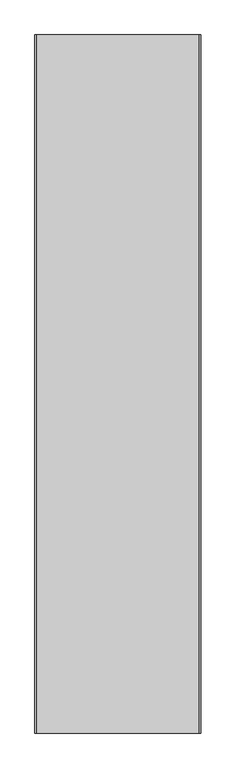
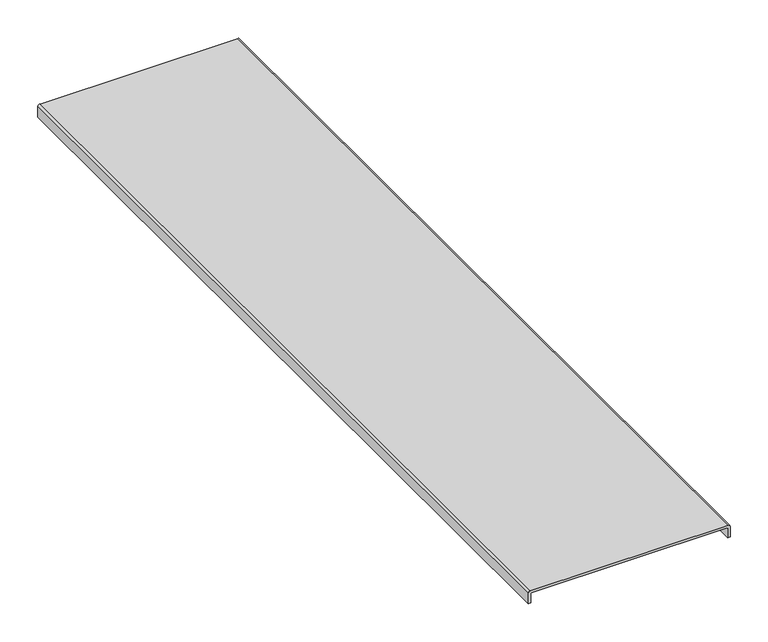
"""IFC4 building model written with IfcOpenShell, lengths in millimetres: proxy geometry, Cable_Tray_Cover_TWT_Basorcanal : Basorcanal TWT 300."""

from ifc_helpers import new_model, si_unit, point, frame, frame_2d, origin, place, context, project, spatial, polyline, circle_curve, trimmed, segment, composite_curve, outline, extrude, source, transform, mapped, element, save


def generic_models_7406f675(model_context):
    return source(origin(), model_context, "Body", "SweptSolid", [
        extrude(outline(composite_curve([segment(trimmed(circle_curve(frame_2d((-0.5, -149.5)), 0.5), [point((-0.5, -150.0))], [point((0.0, -149.5))], True, "CARTESIAN"), True, "CONTINUOUS"), segment(polyline([(0.0, -149.5), (0.0, 149.5)]), True, "CONTINUOUS"), segment(trimmed(circle_curve(frame_2d((-0.5, 149.5)), 0.5), [point((0.0, 149.5))], [point((-0.5, 150.0))], True, "CARTESIAN"), True, "CONTINUOUS"), segment(polyline([(-0.5, 150.0), (-16.0, 150.0), (-16.0, 154.0), (0.9268922, 154.0)]), True, "CONTINUOUS"), segment(trimmed(circle_curve(frame_2d((0.9268922, 150.9268922)), 3.0731078), [point((0.9268922, 154.0))], [point((4.0, 150.9268922))], False, "CARTESIAN"), True, "CONTINUOUS"), segment(polyline([(4.0, 150.9268922), (4.0, -150.6770801)]), True, "CONTINUOUS"), segment(trimmed(circle_curve(frame_2d((0.6770801, -150.6770801)), 3.3229199), [point((4.0, -150.6770801))], [point((0.6770801, -154.0))], False, "CARTESIAN"), True, "CONTINUOUS"), segment(polyline([(0.6770801, -154.0), (-16.0, -154.0), (-16.0, -150.0), (-0.5, -150.0)]), True, "CONTINUOUS")], self_intersect=False)), frame((0.0, 0.0, 0.0), z_axis=(0.0, 1.0, 0.0), x_axis=(0.0, 0.0, 1.0)), (0.0, 0.0, 1.0), 1295.0),
    ])


if __name__ == "__main__":
    model = new_model("IFC4")
    model_context = context("Model", 3, world=origin())
    ifc_project = project(units=[si_unit("LENGTHUNIT", "METRE", prefix="MILLI")], contexts=[model_context])
    site = spatial("IfcSite", under=ifc_project)
    building = spatial("IfcBuilding", under=site)
    placement = place(None, origin())
    generic_models_shape = generic_models_7406f675(model_context)
    element("IfcBuildingElementProxy", 1, Name="Cable_Tray_Cover_TWT_Basorcanal : Basorcanal TWT 300", ObjectType="Cable_Tray_Cover_TWT_Basorcanal : Basorcanal TWT 300", at=placement, inside=building, context=model_context, shape_type="MappedRepresentation", body=[
        mapped(generic_models_shape, transform((0.0, 0.0, 0.0), x_axis=(1.0, 0.0, 0.0), y_axis=(0.0, 1.0, 0.0), z_axis=(0.0, 0.0, 1.0))),
    ])
    save(model, "model.ifc")
